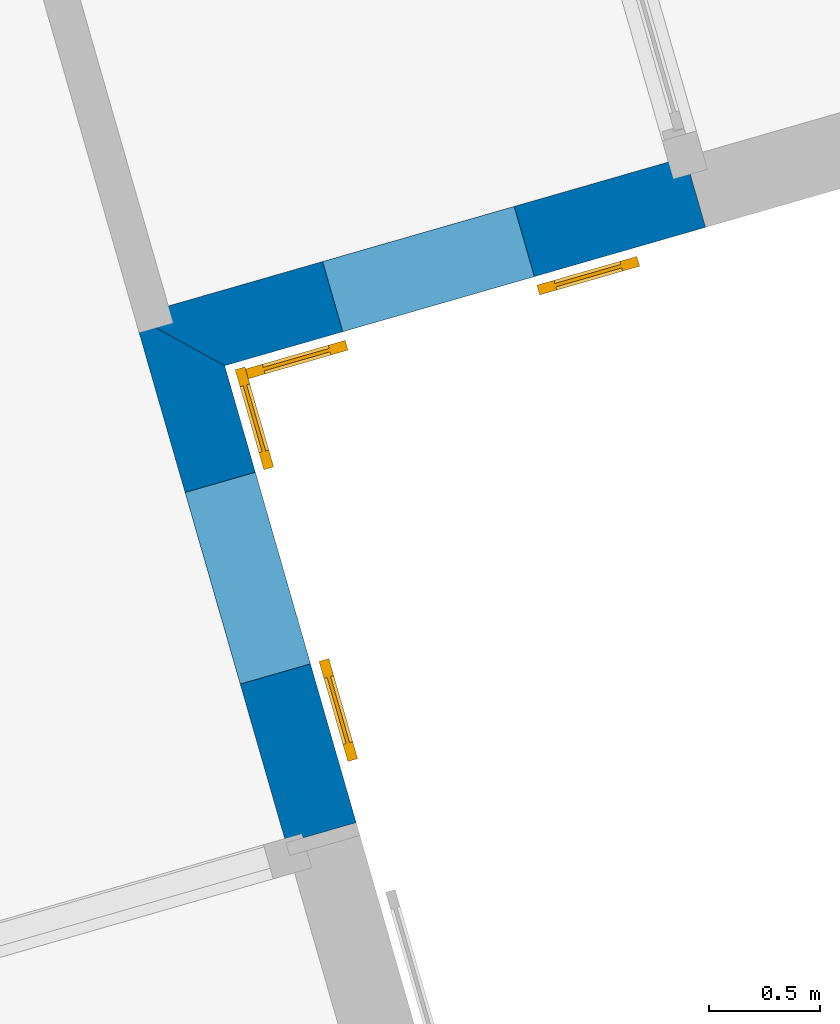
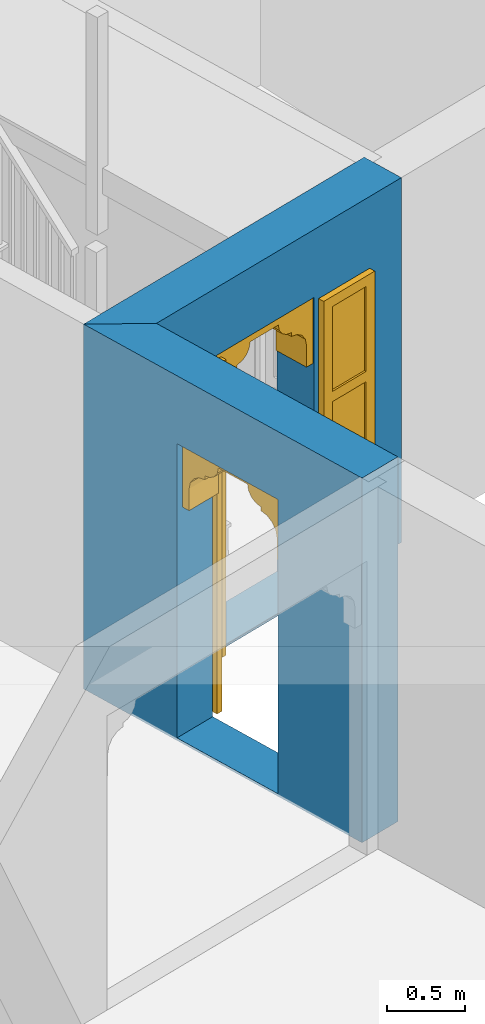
# One storey, part 8 of 16: 2 doors, 2 walls, 2 openings.
"""IFC4 building model written with IfcOpenShell, lengths in metres."""

from ifc_helpers import new_model, si_unit, frame, origin, origin_with_axes, place, context, subcontext, project, spatial, polyline, outline, extrude, faceted_brep, source, transform, mapped, material, layer, layer_set, layer_usage, type_object, type_shapes, element, fill, save


model = new_model("IFC4")

# Units and contexts
model_context = context("Model", 3, world=origin_with_axes())
body_context = subcontext(model_context, "Body", "Model", "MODEL_VIEW")
ifc_project = project(units=[si_unit("PLANEANGLEUNIT", "RADIAN"), si_unit("MASSUNIT", "GRAM", prefix="KILO"), si_unit("FORCEUNIT", "NEWTON", prefix="KILO"), si_unit("LENGTHUNIT", "METRE"), si_unit("AREAUNIT", "SQUARE_METRE"), si_unit("VOLUMEUNIT", "CUBIC_METRE")], contexts=[model_context, model_context])

# Site, building, storey
site_placement = place(None, origin_with_axes())
site = spatial("IfcSite", under=ifc_project, at=site_placement, Name="Site plot-9", CompositionType="ELEMENT")
building_placement = place(None, origin_with_axes())
building = spatial("IfcBuilding", under=site, at=building_placement, Name="Building plot-9", CompositionType="ELEMENT")
storey_placement = place(None, origin_with_axes())
storey = spatial("IfcBuildingStorey", under=building, at=storey_placement, Name="plot-9 0", CompositionType="ELEMENT", Elevation=0.0)

# Wall, opening, door
ifc_material = material(Name="Masonry")
ifc_layer = layer(ifc_material, 0.33, ventilated=False)
ifc_layer_set = layer_set([ifc_layer], Name="exterior_0.08_0.25")
ifc_layer_usage = layer_usage(ifc_layer_set, "AXIS2", "POSITIVE", -0.25)
wall_type = type_object("IfcWallType", Name="exterior_0.08_0.25", PredefinedType="SOLIDWALL", material=ifc_layer_set)
wall_1_placement = place(storey_placement, frame((-18.1024376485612, 1.38127154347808, 0.0), z_axis=(0.0, 0.0, 1.0), x_axis=(-0.276523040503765, 0.961007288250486, 0.0)))
wall_1 = element("IfcWall", 1, at=wall_1_placement, inside=storey, type_object=wall_type, material=ifc_layer_usage, Name="exterior", context=body_context, shape_type="SweptSolid", body=[
    extrude(outline(polyline([(1.45710246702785e-14, 0.0799999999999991), (-4.68361035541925e-14, -0.250000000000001), (2.14575160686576, -0.25), (2.47575160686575, 0.0800000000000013), (1.45710246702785e-14, 0.0799999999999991)])), origin_with_axes(), (0.0, 0.0, 1.0), 2.85),
])
opening_1_placement = place(wall_1_placement, frame((0.745751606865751, 0.0, 0.02)))
opening_1 = element("IfcOpeningElement", 2, at=opening_1_placement, cuts=wall_1, Name="My Opening", ObjectType="Opening", context=body_context, shape_type="SweptSolid", body=[
    extrude(outline(polyline([(0.0, -0.27), (0.9, -0.270000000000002), (0.9, 1.1), (2.22044604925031e-16, 1.1), (0.0, -0.27)])), origin_with_axes(), (0.0, 0.0, 1.0), 2.3),
])
door_type = type_object("IfcDoorType", Name="arch-900x2300", OperationType="SINGLE_SWING_LEFT", PredefinedType="NOTDEFINED")
shared_shape = source(origin(), body_context, "Body", "Brep", [
    faceted_brep([(-0.08, -0.02, 0.08), (-0.08, -0.02, 0.0), (-0.39, -0.02, 0.0), (-0.39, -0.02, 0.08), (-0.47, -0.02, 0.0), (-0.47, -0.02, 0.08), (-0.39, -0.035, 0.08), (-0.08, -0.035, 0.08), (0.0, -0.02, 0.08), (0.0, -0.02, 0.0), (-0.08, -0.066, 0.0), (-0.39, -0.066, 0.0), (-0.47, -0.066, 0.0), (-0.47, -0.066, 0.08), (-0.39, -0.02, 0.743333), (-0.47, -0.02, 0.743333), (-0.39, -0.035, 0.743333), (-0.08, -0.035, 0.743333), (-0.08, -0.02, 0.743333), (0.0, -0.02, 0.743333), (0.0, -0.066, 0.08), (0.0, -0.066, 0.0), (-0.39, -0.066, 0.08), (-0.08, -0.066, 0.08), (-0.47, -0.066, 0.743333), (-0.39, -0.02, 0.823333), (-0.47, -0.02, 0.823333), (0.0, -0.066, 0.743333), (0.0, -0.02, 0.823333), (-0.08, -0.02, 0.823333), (-0.08, -0.051, 0.08), (-0.39, -0.051, 0.08), (-0.39, -0.066, 0.743333), (-0.47, -0.066, 0.823333), (-0.39, -0.02, 1.486667), (-0.47, -0.02, 1.486667), (0.0, -0.066, 0.823333), (-0.08, -0.066, 0.743333), (0.0, -0.02, 1.486667), (-0.08, -0.02, 1.486667), (-0.08, -0.051, 0.743333), (-0.39, -0.051, 0.743333), (-0.39, -0.066, 0.823333), (-0.47, -0.066, 1.486667), (-0.39, -0.035, 0.823333), (-0.08, -0.035, 0.823333), (-0.39, -0.035, 1.486667), (-0.39, -0.02, 1.566667), (-0.47, -0.02, 1.566667), (0.0, -0.066, 1.486667), (-0.08, -0.066, 0.823333), (-0.08, -0.035, 1.486667), (0.0, -0.02, 1.566667), (-0.08, -0.02, 1.566667), (-0.39, -0.066, 1.486667), (-0.47, -0.066, 1.566667), (-0.39, -0.02, 2.23), (-0.47, -0.02, 2.23), (0.0, -0.066, 1.566667), (-0.08, -0.066, 1.486667), (0.0, -0.02, 2.23), (-0.08, -0.02, 2.23), (-0.08, -0.051, 0.823333), (-0.39, -0.051, 0.823333), (-0.39, -0.051, 1.486667), (-0.39, -0.066, 1.566667), (-0.47, -0.066, 2.23), (-0.39, -0.035, 1.566667), (-0.08, -0.035, 1.566667), (-0.39, -0.035, 2.23), (-0.39, -0.02, 2.31), (-0.47, -0.02, 2.31), (0.0, -0.066, 2.23), (-0.08, -0.066, 1.566667), (-0.08, -0.051, 1.486667), (-0.08, -0.035, 2.23), (0.0, -0.02, 2.31), (-0.08, -0.02, 2.31), (-0.39, -0.066, 2.23), (-0.47, -0.066, 2.31), (-0.39, -0.066, 2.31), (0.0, -0.066, 2.31), (-0.08, -0.066, 2.23), (-0.08, -0.066, 2.31), (-0.08, -0.051, 1.566667), (-0.39, -0.051, 1.566667), (-0.39, -0.051, 2.23), (-0.08, -0.051, 2.23), (1.29, -0.02, 0.08), (1.29, -0.02, 0.0), (0.98, -0.02, 0.0), (0.98, -0.02, 0.08), (1.37, -0.02, 0.08), (1.37, -0.02, 0.0), (0.98, -0.035, 0.08), (1.29, -0.035, 0.08), (0.9, -0.02, 0.0), (0.9, -0.02, 0.08), (1.29, -0.066, 0.0), (0.98, -0.066, 0.0), (1.37, -0.066, 0.08), (1.37, -0.066, 0.0), (1.37, -0.02, 0.743333), (1.29, -0.02, 0.743333), (1.29, -0.035, 0.743333), (0.98, -0.035, 0.743333), (0.98, -0.02, 0.743333), (0.9, -0.02, 0.743333), (0.9, -0.066, 0.0), (0.9, -0.066, 0.08), (0.98, -0.066, 0.08), (1.29, -0.066, 0.08), (1.37, -0.066, 0.743333), (1.37, -0.02, 0.823333), (1.29, -0.02, 0.823333), (0.9, -0.066, 0.743333), (0.98, -0.02, 0.823333), (0.9, -0.02, 0.823333), (1.29, -0.051, 0.08), (0.98, -0.051, 0.08), (1.29, -0.066, 0.743333), (1.37, -0.066, 0.823333), (1.37, -0.02, 1.486667), (1.29, -0.02, 1.486667), (0.9, -0.066, 0.823333), (0.98, -0.066, 0.743333), (0.98, -0.02, 1.486667), (0.9, -0.02, 1.486667), (0.98, -0.051, 0.743333), (1.29, -0.051, 0.743333), (1.29, -0.066, 0.823333), (1.37, -0.066, 1.486667), (0.98, -0.035, 0.823333), (1.29, -0.035, 0.823333), (1.29, -0.035, 1.486667), (1.37, -0.02, 1.566667), (1.29, -0.02, 1.566667), (0.9, -0.066, 1.486667), (0.98, -0.066, 0.823333), (0.98, -0.035, 1.486667), (0.98, -0.02, 1.566667), (0.9, -0.02, 1.566667), (1.29, -0.066, 1.486667), (1.37, -0.066, 1.566667), (1.37, -0.02, 2.23), (1.29, -0.02, 2.23), (0.9, -0.066, 1.566667), (0.98, -0.066, 1.486667), (0.98, -0.02, 2.23), (0.9, -0.02, 2.23), (1.29, -0.051, 0.823333), (0.98, -0.051, 0.823333), (1.29, -0.051, 1.486667), (1.29, -0.066, 1.566667), (1.37, -0.066, 2.23), (0.98, -0.035, 1.566667), (1.29, -0.035, 1.566667), (1.29, -0.035, 2.23), (1.37, -0.02, 2.31), (1.29, -0.02, 2.31), (0.9, -0.066, 2.23), (0.98, -0.066, 1.566667), (0.98, -0.051, 1.486667), (0.98, -0.035, 2.23), (0.98, -0.02, 2.31), (0.9, -0.02, 2.31), (1.29, -0.066, 2.23), (1.37, -0.066, 2.31), (1.29, -0.066, 2.31), (0.9, -0.066, 2.31), (0.98, -0.066, 2.23), (0.98, -0.066, 2.31), (1.29, -0.051, 1.566667), (0.98, -0.051, 1.566667), (1.29, -0.051, 2.23), (0.98, -0.051, 2.23), (0.9, 0.03, 1.78), (0.9, 0.03, 1.95), (0.84, 0.03, 1.95), (0.84, 0.03, 1.78), (0.84, 0.3, 1.95), (0.84, 0.3, 1.78), (0.9, 0.03, 2.12), (0.829, 0.03, 2.004), (0.9, 0.3, 1.78), (0.9, 0.3, 1.95), (0.829, 0.3, 2.004), (0.799, 0.03, 2.049), (0.9, 0.3, 2.12), (0.799, 0.3, 2.049), (0.754, 0.03, 2.079), (0.9, 0.3, 2.29), (0.9, 0.03, 2.29), (0.754, 0.3, 2.079), (0.7, 0.03, 2.09), (0.7, 0.03, 2.12), (0.654, 0.03, 2.129), (0.58, 0.3, 2.29), (0.58, 0.03, 2.29), (0.7, 0.3, 2.12), (0.654, 0.3, 2.129), (0.7, 0.3, 2.09), (0.615, 0.03, 2.155), (0.589, 0.3, 2.194), (0.58, 0.3, 2.24), (0.58, 0.03, 2.24), (0.589, 0.03, 2.194), (0.615, 0.3, 2.155), (0.06, 0.03, 1.78), (0.06, 0.03, 1.95), (0.0, 0.03, 1.95), (0.0, 0.03, 1.78), (0.06, 0.3, 1.78), (0.06, 0.3, 1.95), (0.071, 0.03, 2.004), (0.0, 0.03, 2.12), (0.0, 0.3, 1.95), (0.0, 0.3, 1.78), (0.071, 0.3, 2.004), (0.101, 0.03, 2.049), (0.0, 0.3, 2.12), (0.101, 0.3, 2.049), (0.146, 0.03, 2.079), (0.0, 0.03, 2.29), (0.0, 0.3, 2.29), (0.146, 0.3, 2.079), (0.2, 0.03, 2.12), (0.2, 0.03, 2.09), (0.246, 0.03, 2.129), (0.32, 0.03, 2.29), (0.32, 0.3, 2.29), (0.246, 0.3, 2.129), (0.2, 0.3, 2.12), (0.2, 0.3, 2.09), (0.285, 0.03, 2.155), (0.32, 0.3, 2.24), (0.311, 0.3, 2.194), (0.311, 0.03, 2.194), (0.32, 0.03, 2.24), (0.285, 0.3, 2.155)], [[[0, 1, 2, 3]], [[4, 5, 3, 2]], [[0, 3, 6, 7]], [[1, 0, 8, 9]], [[2, 1, 10, 11]], [[5, 4, 12, 13]], [[14, 3, 5, 15]], [[4, 2, 11, 12]], [[3, 14, 16, 6]], [[6, 16, 17, 7]], [[18, 0, 7, 17]], [[0, 18, 19, 8]], [[9, 8, 20, 21]], [[1, 9, 21, 10]], [[22, 11, 10, 23]], [[13, 12, 11, 22]], [[15, 5, 13, 24]], [[25, 14, 15, 26]], [[14, 18, 17, 16]], [[8, 19, 27, 20]], [[28, 19, 18, 29]], [[23, 10, 21, 20]], [[22, 23, 30, 31]], [[22, 32, 24, 13]], [[26, 15, 24, 33]], [[29, 18, 14, 25]], [[34, 25, 26, 35]], [[19, 28, 36, 27]], [[20, 27, 37, 23]], [[38, 28, 29, 39]], [[23, 37, 40, 30]], [[41, 31, 30, 40]], [[32, 22, 31, 41]], [[32, 42, 33, 24]], [[35, 26, 33, 43]], [[29, 25, 44, 45]], [[25, 34, 46, 44]], [[47, 34, 35, 48]], [[28, 38, 49, 36]], [[27, 36, 50, 37]], [[39, 29, 45, 51]], [[52, 38, 39, 53]], [[37, 32, 41, 40]], [[37, 50, 42, 32]], [[42, 54, 43, 33]], [[48, 35, 43, 55]], [[44, 46, 51, 45]], [[34, 39, 51, 46]], [[34, 47, 53, 39]], [[56, 47, 48, 57]], [[38, 52, 58, 49]], [[36, 49, 59, 50]], [[60, 52, 53, 61]], [[42, 50, 62, 63]], [[54, 42, 63, 64]], [[54, 65, 55, 43]], [[57, 48, 55, 66]], [[53, 47, 67, 68]], [[47, 56, 69, 67]], [[70, 56, 57, 71]], [[52, 60, 72, 58]], [[49, 58, 73, 59]], [[50, 59, 74, 62]], [[61, 53, 68, 75]], [[76, 60, 61, 77]], [[64, 63, 62, 74]], [[59, 54, 64, 74]], [[65, 54, 59, 73]], [[65, 78, 66, 55]], [[71, 57, 66, 79]], [[67, 69, 75, 68]], [[56, 61, 75, 69]], [[77, 61, 56, 70]], [[70, 71, 79, 80]], [[60, 76, 81, 72]], [[58, 72, 82, 73]], [[76, 77, 83, 81]], [[65, 73, 84, 85]], [[78, 65, 85, 86]], [[78, 80, 79, 66]], [[77, 70, 80, 83]], [[72, 81, 83, 82]], [[73, 82, 87, 84]], [[86, 85, 84, 87]], [[82, 78, 86, 87]], [[82, 83, 80, 78]], [[88, 89, 90, 91]], [[89, 88, 92, 93]], [[94, 95, 88, 91]], [[96, 97, 91, 90]], [[98, 99, 90, 89]], [[100, 101, 93, 92]], [[102, 92, 88, 103]], [[101, 98, 89, 93]], [[95, 104, 103, 88]], [[94, 105, 104, 95]], [[105, 94, 91, 106]], [[97, 107, 106, 91]], [[108, 109, 97, 96]], [[99, 108, 96, 90]], [[110, 99, 98, 111]], [[111, 98, 101, 100]], [[112, 100, 92, 102]], [[113, 102, 103, 114]], [[104, 105, 106, 103]], [[109, 115, 107, 97]], [[116, 106, 107, 117]], [[109, 108, 99, 110]], [[118, 119, 110, 111]], [[100, 112, 120, 111]], [[121, 112, 102, 113]], [[114, 103, 106, 116]], [[122, 113, 114, 123]], [[115, 124, 117, 107]], [[110, 125, 115, 109]], [[126, 116, 117, 127]], [[119, 128, 125, 110]], [[128, 119, 118, 129]], [[129, 118, 111, 120]], [[112, 121, 130, 120]], [[131, 121, 113, 122]], [[132, 133, 114, 116]], [[133, 134, 123, 114]], [[135, 122, 123, 136]], [[124, 137, 127, 117]], [[125, 138, 124, 115]], [[139, 132, 116, 126]], [[140, 126, 127, 141]], [[128, 129, 120, 125]], [[120, 130, 138, 125]], [[121, 131, 142, 130]], [[143, 131, 122, 135]], [[132, 139, 134, 133]], [[134, 139, 126, 123]], [[126, 140, 136, 123]], [[144, 135, 136, 145]], [[137, 146, 141, 127]], [[138, 147, 137, 124]], [[148, 140, 141, 149]], [[150, 151, 138, 130]], [[152, 150, 130, 142]], [[131, 143, 153, 142]], [[154, 143, 135, 144]], [[155, 156, 136, 140]], [[156, 157, 145, 136]], [[158, 144, 145, 159]], [[146, 160, 149, 141]], [[147, 161, 146, 137]], [[151, 162, 147, 138]], [[163, 155, 140, 148]], [[164, 148, 149, 165]], [[162, 151, 150, 152]], [[162, 152, 142, 147]], [[161, 147, 142, 153]], [[143, 154, 166, 153]], [[167, 154, 144, 158]], [[155, 163, 157, 156]], [[157, 163, 148, 145]], [[159, 145, 148, 164]], [[168, 167, 158, 159]], [[160, 169, 165, 149]], [[161, 170, 160, 146]], [[169, 171, 164, 165]], [[172, 173, 161, 153]], [[174, 172, 153, 166]], [[154, 167, 168, 166]], [[171, 168, 159, 164]], [[170, 171, 169, 160]], [[173, 175, 170, 161]], [[175, 173, 172, 174]], [[175, 174, 166, 170]], [[166, 168, 171, 170]], [[176, 177, 178, 179]], [[180, 181, 179, 178]], [[177, 182, 183, 178]], [[177, 176, 184, 185]], [[181, 184, 176, 179]], [[181, 180, 185, 184]], [[186, 180, 178, 183]], [[182, 187, 183]], [[182, 177, 185, 188]], [[180, 186, 188, 185]], [[189, 186, 183, 187]], [[182, 190, 187]], [[188, 191, 192, 182]], [[188, 186, 189]], [[193, 189, 187, 190]], [[194, 190, 182, 195]], [[182, 192, 196, 195]], [[192, 191, 197, 198]], [[199, 200, 191, 188]], [[188, 189, 193]], [[201, 193, 190, 194]], [[199, 201, 194, 195]], [[200, 199, 195, 196]], [[192, 202, 196]], [[191, 203, 204, 197]], [[192, 198, 205, 206]], [[207, 191, 200]], [[199, 188, 193, 201]], [[207, 200, 196, 202]], [[192, 206, 202]], [[204, 203, 206, 205]], [[203, 191, 207]], [[203, 207, 202, 206]], [[208, 209, 210, 211]], [[209, 208, 212, 213]], [[209, 214, 215, 210]], [[211, 210, 216, 217]], [[208, 211, 217, 212]], [[217, 216, 213, 212]], [[214, 209, 213, 218]], [[214, 219, 215]], [[220, 216, 210, 215]], [[216, 220, 218, 213]], [[219, 214, 218, 221]], [[219, 222, 215]], [[215, 223, 224, 220]], [[221, 218, 220]], [[222, 219, 221, 225]], [[226, 215, 222, 227]], [[226, 228, 223, 215]], [[229, 230, 224, 223]], [[220, 224, 231, 232]], [[225, 221, 220]], [[227, 222, 225, 233]], [[226, 227, 233, 232]], [[228, 226, 232, 231]], [[228, 234, 223]], [[230, 235, 236, 224]], [[237, 238, 229, 223]], [[231, 224, 239]], [[233, 225, 220, 232]], [[234, 228, 231, 239]], [[234, 237, 223]], [[238, 237, 236, 235]], [[239, 224, 236]], [[237, 234, 239, 236]], [[238, 235, 204, 205]], [[235, 230, 197, 204]], [[229, 238, 205, 198]], [[230, 229, 198, 197]]]),
])
type_shapes(door_type, [shared_shape])
door_1_placement = place(storey_placement, frame((-18.0491831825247, 2.17260549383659, 0.02), z_axis=(0.0, 0.0, 1.0), x_axis=(-0.248870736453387, 0.864906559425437, 0.0)))
door_1 = element("IfcDoor", 3, at=door_1_placement, inside=storey, type_object=door_type, Name="kitchen sahn door", OverallHeight=2.3, OverallWidth=0.9, context=body_context, shape_type="MappedRepresentation", body=[
    mapped(shared_shape, transform((0.0, 0.0, 0.0), scale=1.0)),
])
fill(opening_1, door_1)

wall_2_placement = place(storey_placement, frame((-18.7649181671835, 3.68360629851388, 0.0), z_axis=(0.0, 0.0, 1.0), x_axis=(0.961007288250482, 0.276523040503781, 0.0)))
wall_2 = element("IfcWall", 4, at=wall_2_placement, inside=storey, type_object=wall_type, material=ifc_layer_usage, Name="exterior", context=body_context, shape_type="SweptSolid", body=[
    extrude(outline(polyline([(-0.0799999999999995, 0.0800000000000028), (0.249999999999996, -0.249999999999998), (2.50864189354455, -0.25), (2.50864189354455, 0.0800000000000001), (-0.0799999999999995, 0.0800000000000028)])), origin_with_axes(), (0.0, 0.0, 1.0), 2.85),
])
opening_2_placement = place(wall_2_placement, frame((0.804320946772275, 0.0, 0.02)))
opening_2 = element("IfcOpeningElement", 5, at=opening_2_placement, cuts=wall_2, Name="My Opening", ObjectType="Opening", context=body_context, shape_type="SweptSolid", body=[
    extrude(outline(polyline([(0.0, -0.27), (0.900000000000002, -0.270000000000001), (0.900000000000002, 1.1), (8.88178419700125e-16, 1.1), (0.0, -0.27)])), origin_with_axes(), (0.0, 0.0, 1.0), 2.3),
])
door_2_placement = place(storey_placement, frame((-17.9172986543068, 3.6465476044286, 0.02), z_axis=(0.0, 0.0, 1.0), x_axis=(0.864906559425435, 0.248870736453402, 0.0)))
door_2 = element("IfcDoor", 6, at=door_2_placement, inside=storey, type_object=door_type, Name="circulation sahn door", OverallHeight=2.3, OverallWidth=0.9, context=body_context, shape_type="MappedRepresentation", body=[
    mapped(shared_shape, transform((0.0, 0.0, 0.0), scale=1.0)),
])
fill(opening_2, door_2)

save(model, "model.ifc")
